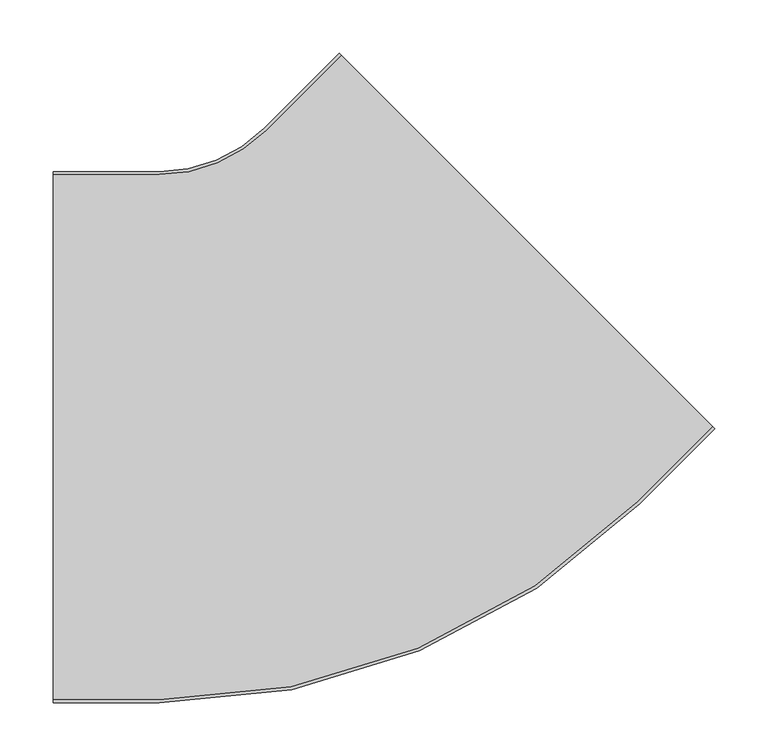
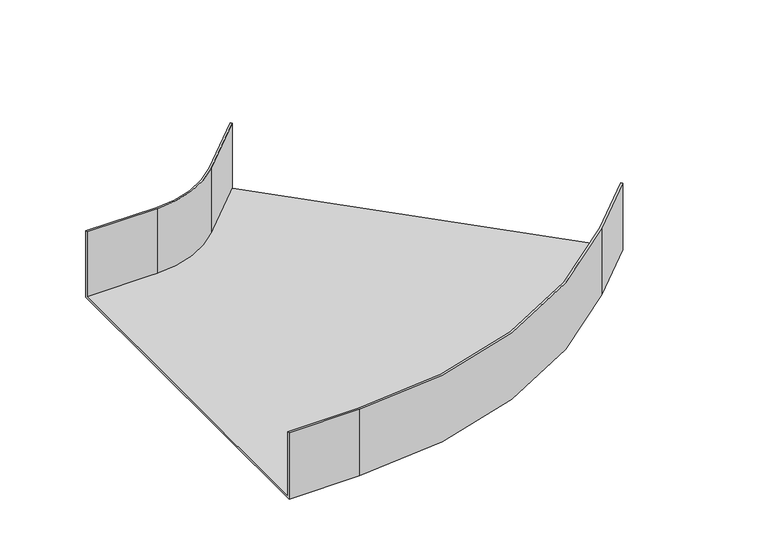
"""IFC4 building model written with IfcOpenShell, lengths in millimetres: cable carrier fitting geometry, BAKS_Horizontal bend radius : KKPP/KKMPP_H100."""

from ifc_helpers import new_model, si_unit, frame, origin, place, context, project, spatial, polyline, circle_curve, source, transform, mapped, element, save
from ifc_brep_helpers import plane_surface, cylinder_surface, revolved_surface, advanced_brep


def cable_carrier_fitting_a7a9146a(model_context):
    return source(origin(), model_context, "Body", "AdvancedBrep", [
        advanced_brep(
        [(-261.5432893, -250.0, -50.0), (-261.5432893, -250.0, 50.0), (-261.5432893, -247.46, 50.0), (-261.5432893, -247.46, -47.46), (-261.5432893, 247.46, -47.46), (-261.5432893, 247.46, 50.0), (-261.5432893, 250.0, 50.0), (-261.5432893, 250.0, -50.0), (361.7157288, 8.1623382, -50.0), (8.1623382, 361.7157288, -50.0), (8.1623382, 361.7157288, 50.0), (9.9583894, 359.9196775, 50.0), (9.9583894, 359.9196775, -47.46), (359.9196775, 9.9583894, -47.46), (359.9196775, 9.9583894, 50.0), (361.7157288, 8.1623382, 50.0), (-161.5432893, -250.0, -50.0), (-161.5432893, -250.0, 50.0), (291.0050506, -62.54834, 50.0), (289.2089994, -60.7522887, 50.0), (-161.5432893, -247.46, 50.0), (-161.5432893, -247.46, -47.46), (289.2089994, -60.7522887, -47.46), (-60.7522887, 289.2089994, -47.46), (-161.5432893, 247.46, -47.46), (-161.5432893, 247.46, 50.0), (-60.7522887, 289.2089994, 50.0), (-62.54834, 291.0050506, 50.0), (-161.5432893, 250.0, 50.0), (-161.5432893, 250.0, -50.0), (-62.54834, 291.0050506, -50.0), (291.0050506, -62.54834, -50.0)],
        [
            (0, 1),
            (1, 2),
            (2, 3),
            (3, 4),
            (4, 5),
            (5, 6),
            (6, 7),
            (7, 0),
            (8, 9),
            (9, 10),
            (10, 11),
            (11, 12),
            (12, 13),
            (13, 14),
            (14, 15),
            (15, 8),
            (0, 16),
            (16, 17),
            (17, 1),
            (17, 18, circle_curve(frame((-161.5432893, 390.0, 50.0), z_axis=(0.0, 0.0, 1.0), x_axis=(0.0, -1.0, 0.0)), 640.0)),
            (18, 15),
            (14, 19),
            (19, 20, circle_curve(frame((-161.5432893, 390.0, 50.0), z_axis=(0.0, 0.0, -1.0), x_axis=(0.0, -1.0, 0.0)), 637.46)),
            (20, 2),
            (20, 21),
            (21, 3),
            (21, 22, circle_curve(frame((-161.5432893, 390.0, -47.46), z_axis=(0.0, 0.0, 1.0), x_axis=(0.0, -1.0, 0.0)), 637.46)),
            (22, 13),
            (12, 23),
            (23, 24, circle_curve(frame((-161.5432893, 390.0, -47.46), z_axis=(0.0, 0.0, -1.0), x_axis=(0.0, -1.0, 0.0)), 142.54)),
            (24, 4),
            (24, 25),
            (25, 5),
            (25, 26, circle_curve(frame((-161.5432893, 390.0, 50.0), z_axis=(0.0, 0.0, 1.0), x_axis=(0.0, -1.0, 0.0)), 142.54)),
            (26, 11),
            (10, 27),
            (27, 28, circle_curve(frame((-161.5432893, 390.0, 50.0), z_axis=(0.0, 0.0, -1.0), x_axis=(0.0, -1.0, 0.0)), 140.0)),
            (28, 6),
            (28, 29),
            (29, 7),
            (29, 30, circle_curve(frame((-161.5432893, 390.0, -50.0), z_axis=(0.0, 0.0, 1.0), x_axis=(0.0, -1.0, 0.0)), 140.0)),
            (30, 9),
            (8, 31),
            (31, 16, circle_curve(frame((-161.5432893, 390.0, -50.0), z_axis=(0.0, 0.0, -1.0), x_axis=(0.0, -1.0, 0.0)), 640.0)),
            (31, 18),
            (19, 22),
            (23, 26),
            (27, 30),
        ],
        [
            plane_surface(frame((-261.5432893, 0.0, 0.0), z_axis=(-1.0, 0.0, 0.0), x_axis=(0.0, 0.0, 1.0))),
            plane_surface(frame((184.9390335, 184.9390335, 0.0), z_axis=(0.7071067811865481, 0.7071067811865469, 0.0), x_axis=(0.0, 0.0, 1.0))),
            plane_surface(frame((-261.5432893, -250.0, -50.0), z_axis=(0.0, -1.0, 0.0), x_axis=(1.0, 0.0, 0.0))),
            plane_surface(frame((-261.5432893, -250.0, 50.0), z_axis=(0.0, 0.0, 1.0), x_axis=(1.0, 0.0, 0.0))),
            plane_surface(frame((-261.5432893, -247.46, 50.0), z_axis=(0.0, 1.0, 0.0), x_axis=(1.0, 0.0, 0.0))),
            plane_surface(frame((-261.5432893, -247.46, -47.46), z_axis=(0.0, 0.0, 1.0), x_axis=(1.0, 0.0, 0.0))),
            plane_surface(frame((-261.5432893, 247.46, -47.46), z_axis=(0.0, -1.0, 0.0), x_axis=(1.0, 0.0, 0.0))),
            plane_surface(frame((-261.5432893, 247.46, 50.0), z_axis=(0.0, 0.0, 1.0), x_axis=(1.0, 0.0, 0.0))),
            plane_surface(frame((-261.5432893, 250.0, 50.0), z_axis=(0.0, 1.0, 0.0), x_axis=(1.0, 0.0, 0.0))),
            plane_surface(frame((-261.5432893, 250.0, -50.0), z_axis=(0.0, 0.0, -1.0), x_axis=(1.0, 0.0, 0.0))),
            cylinder_surface(frame((-161.5432893, 390.0, 0.0), z_axis=(0.0, 0.0, 1.0), x_axis=(0.0, -1.0, 0.0)), 640.0),
            revolved_surface(polyline([(-161.5432893, -247.46000000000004, 50.0), (-161.5432893, -247.46000000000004, -47.46)]), (-161.5432893, 390.0, 0.0), (0.0, 0.0, 1.0)),
            cylinder_surface(frame((-161.5432893, 390.0, 0.0), z_axis=(0.0, 0.0, 1.0), x_axis=(0.0, -1.0, 0.0)), 142.54),
            revolved_surface(polyline([(-161.5432893, 250.0, 50.0), (-161.5432893, 250.0, -50.0)]), (-161.5432893, 390.0, 0.0), (0.0, 0.0, 1.0)),
            plane_surface(frame((291.0050506, -62.54834, -50.0), z_axis=(0.7071067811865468, -0.7071067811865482, 0.0), x_axis=(0.7071067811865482, 0.7071067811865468, 0.0))),
            plane_surface(frame((289.2089994, -60.7522887, 50.0), z_axis=(-0.7071067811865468, 0.7071067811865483, 0.0), x_axis=(0.7071067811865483, 0.7071067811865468, 0.0))),
            plane_surface(frame((-60.7522887, 289.2089994, -47.46), z_axis=(0.7071067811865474, -0.7071067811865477, 0.0), x_axis=(0.7071067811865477, 0.7071067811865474, 0.0))),
            plane_surface(frame((-62.54834, 291.0050506, 50.0), z_axis=(-0.7071067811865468, 0.7071067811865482, 0.0), x_axis=(0.7071067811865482, 0.7071067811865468, 0.0))),
        ],
        [
            (0, [[1, 2, 3, 4, 5, 6, 7, 8]]),
            (1, [[9, 10, 11, 12, 13, 14, 15, 16]]),
            (2, [[-1, 17, 18, 19]]),
            (3, [[-2, -19, 20, 21, -15, 22, 23, 24]]),
            (4, [[-3, -24, 25, 26]]),
            (5, [[-4, -26, 27, 28, -13, 29, 30, 31]]),
            (6, [[-5, -31, 32, 33]]),
            (7, [[-6, -33, 34, 35, -11, 36, 37, 38]]),
            (8, [[-7, -38, 39, 40]]),
            (9, [[-8, -40, 41, 42, -9, 43, 44, -17]]),
            (10, [[-20, -18, -44, 45]]),
            (11, [[-27, -25, -23, 46]]),
            (12, [[-34, -32, -30, 47]]),
            (13, [[-41, -39, -37, 48]]),
            (14, [[-45, -43, -16, -21]]),
            (15, [[-46, -22, -14, -28]]),
            (16, [[-47, -29, -12, -35]]),
            (17, [[-48, -36, -10, -42]]),
        ],
    ),
    ])


if __name__ == "__main__":
    model = new_model("IFC4")
    model_context = context("Model", 3, world=origin())
    ifc_project = project(units=[si_unit("LENGTHUNIT", "METRE", prefix="MILLI")], contexts=[model_context])
    site = spatial("IfcSite", under=ifc_project)
    building = spatial("IfcBuilding", under=site)
    placement = place(None, origin())
    cable_carrier_fitting_shape = cable_carrier_fitting_a7a9146a(model_context)
    element("IfcCableCarrierFitting", 1, ObjectType="BAKS_Horizontal bend radius : KKPP/KKMPP_H100", at=placement, inside=building, context=model_context, shape_type="MappedRepresentation", body=[
        mapped(cable_carrier_fitting_shape, transform((0.0, 0.0, 0.0), x_axis=(1.0, 0.0, 0.0), y_axis=(0.0, 1.0, 0.0), z_axis=(0.0, 0.0, 1.0))),
    ])
    save(model, "model.ifc")
